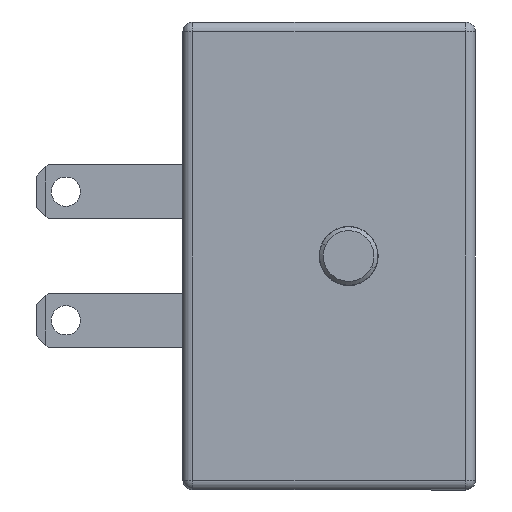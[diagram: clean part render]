
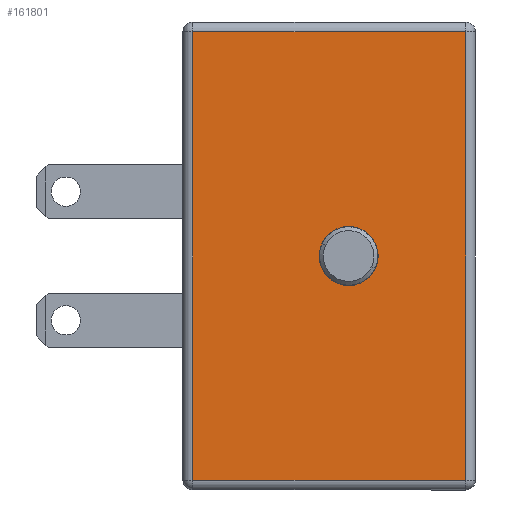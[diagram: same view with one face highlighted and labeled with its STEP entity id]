
A CAD part, left-side view. The second image highlights one B-rep face of the part: STEP entity #161801.
In plain terms, the highlighted planar face has unit normal (-1, 0, 0) as drawn and (0, 0, -1) by its records, which use the part's own axes.
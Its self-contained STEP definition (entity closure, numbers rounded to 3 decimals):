
#5427 = PLANE ( 'NONE',  #179328 ) ;
#10857 = EDGE_CURVE ( 'NONE', #25122, #108513, #85076, .T. ) ;
#12261 = VECTOR ( 'NONE', #62235, 1000. ) ;
#19517 = DIRECTION ( 'NONE',  ( 0., -1., 0. ) ) ;
#25122 = VERTEX_POINT ( 'NONE', #55850 ) ;
#25434 = CARTESIAN_POINT ( 'NONE',  ( 0., 0., -52. ) ) ;
#27022 = FACE_OUTER_BOUND ( 'NONE', #144535, .T. ) ;
#29936 = DIRECTION ( 'NONE',  ( 0., 0., 1. ) ) ;
#39636 = CARTESIAN_POINT ( 'NONE',  ( -12., -6., -52. ) ) ;
#41022 = CARTESIAN_POINT ( 'NONE',  ( -11.5, 8., -52. ) ) ;
#48090 = DIRECTION ( 'NONE',  ( 0.487, -0.873, 0. ) ) ;
#52622 = ORIENTED_EDGE ( 'NONE', *, *, #128717, .T. ) ;
#54255 = CARTESIAN_POINT ( 'NONE',  ( 11.5, 8., -52. ) ) ;
#55850 = CARTESIAN_POINT ( 'NONE',  ( 0.738, -1.323, -52. ) ) ;
#59580 = VERTEX_POINT ( 'NONE', #41022 ) ;
#62235 = DIRECTION ( 'NONE',  ( -1., 0., 0. ) ) ;
#68774 = ORIENTED_EDGE ( 'NONE', *, *, #10857, .T. ) ;
#70130 = VECTOR ( 'NONE', #19517, 1000. ) ;
#81924 = ORIENTED_EDGE ( 'NONE', *, *, #121140, .T. ) ;
#85076 = CIRCLE ( 'NONE', #282812, 1.515 ) ;
#95661 = AXIS2_PLACEMENT_3D ( 'NONE', #25434, #182920, #48090 ) ;
#96060 = DIRECTION ( 'NONE',  ( 0., 0., 1. ) ) ;
#108513 = VERTEX_POINT ( 'NONE', #187865 ) ;
#119564 = EDGE_CURVE ( 'NONE', #185540, #155345, #125085, .T. ) ;
#120220 = CARTESIAN_POINT ( 'NONE',  ( 11.5, -6., -52. ) ) ;
#121140 = EDGE_CURVE ( 'NONE', #59580, #211659, #251532, .T. ) ;
#125085 = LINE ( 'NONE', #39636, #12261 ) ;
#128717 = EDGE_CURVE ( 'NONE', #108513, #25122, #273784, .T. ) ;
#142457 = ORIENTED_EDGE ( 'NONE', *, *, #232200, .T. ) ;
#144535 = EDGE_LOOP ( 'NONE', ( #81924, #142457, #198538, #242011 ) ) ;
#150053 = VECTOR ( 'NONE', #177509, 1000. ) ;
#154382 = CARTESIAN_POINT ( 'NONE',  ( 11.5, -6.5, -52. ) ) ;
#154850 = CARTESIAN_POINT ( 'NONE',  ( -11.5, 8.5, -52. ) ) ;
#155345 = VERTEX_POINT ( 'NONE', #281347 ) ;
#161801 = ADVANCED_FACE ( 'NONE', ( #27022, #259499 ), #5427, .F. ) ;
#164826 = CARTESIAN_POINT ( 'NONE',  ( 0., 0., -52. ) ) ;
#175544 = DIRECTION ( 'NONE',  ( 1., 0., 0. ) ) ;
#177509 = DIRECTION ( 'NONE',  ( 0., 1., 0. ) ) ;
#179328 = AXIS2_PLACEMENT_3D ( 'NONE', #252520, #96060, #253475 ) ;
#182920 = DIRECTION ( 'NONE',  ( 0., 0., 1. ) ) ;
#185540 = VERTEX_POINT ( 'NONE', #120220 ) ;
#187441 = DIRECTION ( 'NONE',  ( 0.487, -0.873, 0. ) ) ;
#187865 = CARTESIAN_POINT ( 'NONE',  ( -0.738, 1.323, -52. ) ) ;
#198538 = ORIENTED_EDGE ( 'NONE', *, *, #119564, .T. ) ;
#198745 = VECTOR ( 'NONE', #175544, 1000. ) ;
#205795 = EDGE_CURVE ( 'NONE', #155345, #59580, #209860, .T. ) ;
#209860 = LINE ( 'NONE', #154850, #150053 ) ;
#211659 = VERTEX_POINT ( 'NONE', #54255 ) ;
#232200 = EDGE_CURVE ( 'NONE', #211659, #185540, #242698, .T. ) ;
#242011 = ORIENTED_EDGE ( 'NONE', *, *, #205795, .T. ) ;
#242415 = CARTESIAN_POINT ( 'NONE',  ( 12., 8., -52. ) ) ;
#242698 = LINE ( 'NONE', #154382, #70130 ) ;
#251505 = EDGE_LOOP ( 'NONE', ( #68774, #52622 ) ) ;
#251532 = LINE ( 'NONE', #242415, #198745 ) ;
#252520 = CARTESIAN_POINT ( 'NONE',  ( -12., -6.5, -52. ) ) ;
#253475 = DIRECTION ( 'NONE',  ( 1., 0., 0. ) ) ;
#259499 = FACE_BOUND ( 'NONE', #251505, .T. ) ;
#273784 = CIRCLE ( 'NONE', #95661, 1.515 ) ;
#281347 = CARTESIAN_POINT ( 'NONE',  ( -11.5, -6., -52. ) ) ;
#282812 = AXIS2_PLACEMENT_3D ( 'NONE', #164826, #29936, #187441 ) ;
